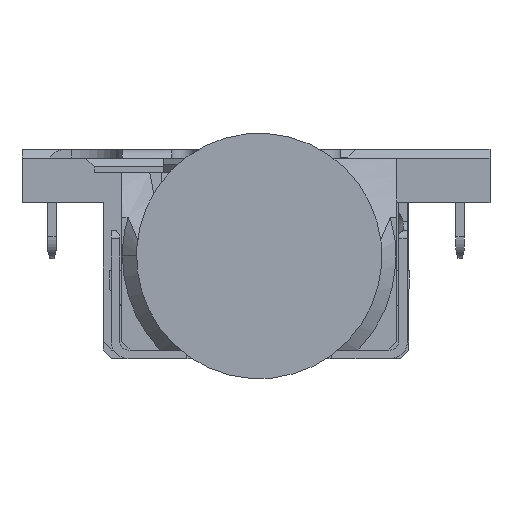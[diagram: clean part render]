
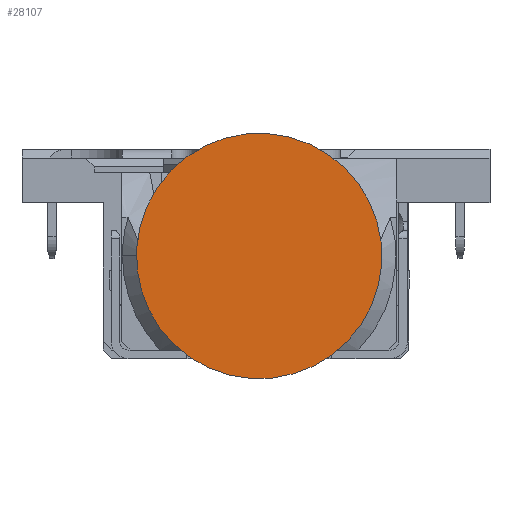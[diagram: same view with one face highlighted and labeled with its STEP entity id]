
A CAD part, front view. The second image highlights one B-rep face of the part: STEP entity #28107.
In plain terms, the highlighted planar face has unit normal (0, -1, 0) as drawn and (1, 0, 0) by its records, which use the part's own axes.
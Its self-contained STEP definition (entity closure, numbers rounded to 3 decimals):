
#27464=CARTESIAN_POINT('',(16.396,2.85,-2.85));
#27465=DIRECTION('',(1.,0.,0.));
#27466=DIRECTION('',(0.,0.,-1.));
#27467=AXIS2_PLACEMENT_3D('',#27464,#27465,#27466);
#27469=CARTESIAN_POINT('',(16.396,2.85,-2.85));
#27470=DIRECTION('',(1.,0.,0.));
#27471=DIRECTION('',(0.,0.,1.));
#27472=AXIS2_PLACEMENT_3D('',#27469,#27470,#27471);
#27520=CARTESIAN_POINT('',(16.396,2.85,0.022));
#27522=VERTEX_POINT('',#27520);
#27538=CARTESIAN_POINT('',(16.396,2.85,-5.722));
#27539=VERTEX_POINT('',#27538);
#28098=CARTESIAN_POINT('',(16.396,6.855,-4.198));
#28099=DIRECTION('',(1.,0.,0.));
#28100=DIRECTION('',(0.,0.,-1.));
#28101=AXIS2_PLACEMENT_3D('',#28098,#28099,#28100);
#28102=PLANE('',#28101);
#28103=ORIENTED_EDGE('',*,*,#28092,.F.);
#28104=ORIENTED_EDGE('',*,*,#28075,.F.);
#28105=EDGE_LOOP('',(#28103,#28104));
#28106=FACE_OUTER_BOUND('',#28105,.F.);
#27468=CIRCLE('',#27467,2.872);
#27473=CIRCLE('',#27472,2.872);
#28075=EDGE_CURVE('',#27522,#27539,#27473,.T.);
#28092=EDGE_CURVE('',#27539,#27522,#27468,.T.);
#28107=ADVANCED_FACE('',(#28106),#28102,.T.);
